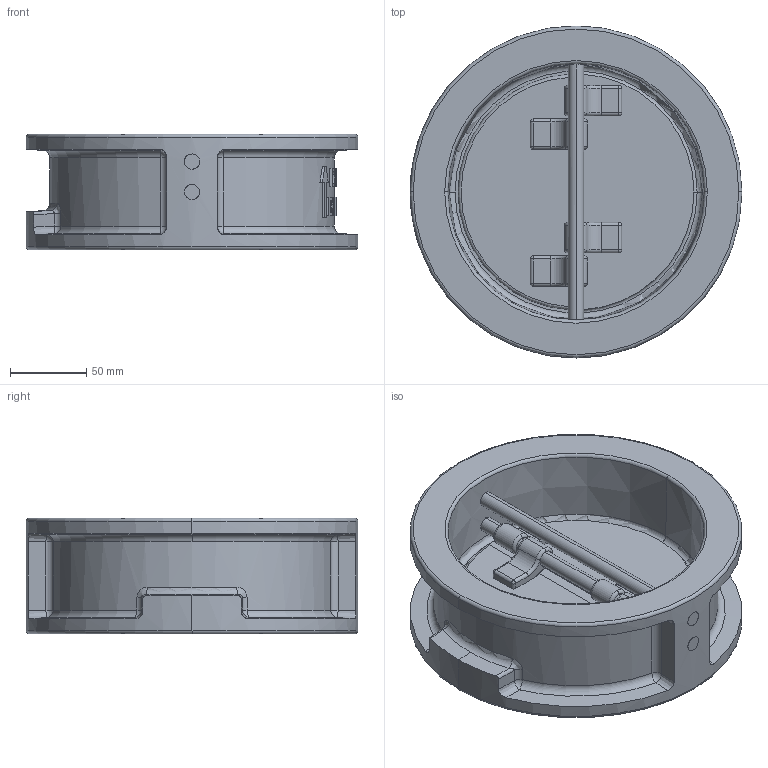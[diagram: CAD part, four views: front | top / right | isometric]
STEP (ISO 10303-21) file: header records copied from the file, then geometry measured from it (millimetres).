
FILE_DESCRIPTION (( 'STEP AP203' ), '1' );
FILE_NAME ('润泽DN150对夹双板止回阀PN16.STEP', '2026-08-19T02:44:30', ( 'Windows 用户' ), ( 'Microsoft' ), 'SwSTEP 2.0', 'SolidWorks 2022', '' );
FILE_SCHEMA (( 'CONFIG_CONTROL_DESIGN' ));
Length unit declared in the file: millimetre
Products named in the file (1): 润泽DN150对夹双板止回阀PN16
Bounding box: 218 x 218 x 76 mm (x, y, z)
Volume: 992768.7 mm3; surface area: 194787.7 mm2
Topology: 1 solids, 1 shells, 360 faces, 898 edges, 547 vertices
Faces by surface type: plane 103, cylinder 96, bspline 84, torus 46, sphere 18, cone 13
Entity records: 13504 total; most frequent: CARTESIAN_POINT 5471, ORIENTED_EDGE 1780, DIRECTION 1488, EDGE_CURVE 890, AXIS2_PLACEMENT_3D 577, VERTEX_POINT 547, EDGE_LOOP 387, FACE_OUTER_BOUND 360
